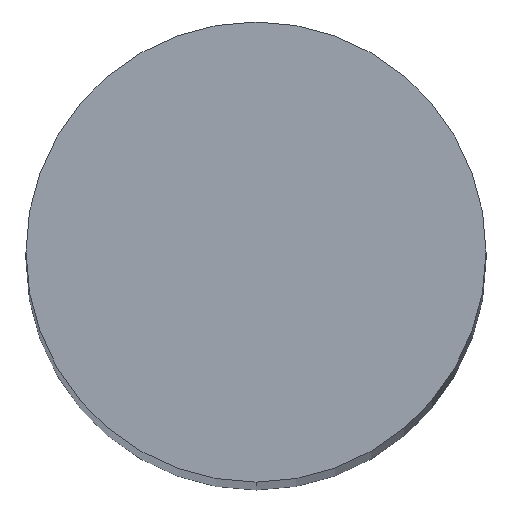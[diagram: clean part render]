
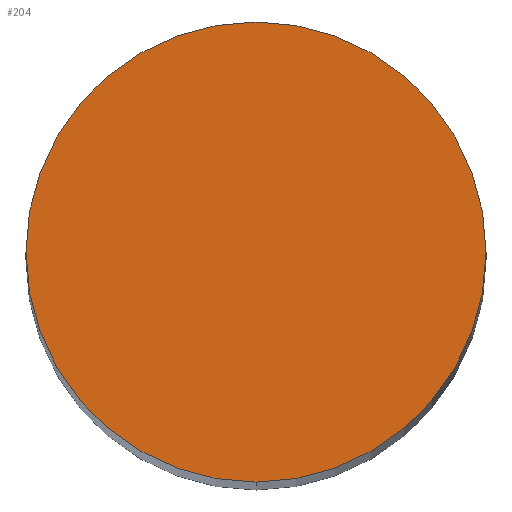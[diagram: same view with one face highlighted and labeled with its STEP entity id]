
A CAD part, top view. The second image highlights one B-rep face of the part: STEP entity #204.
In plain terms, the highlighted planar face has unit normal (0, 0, 1).
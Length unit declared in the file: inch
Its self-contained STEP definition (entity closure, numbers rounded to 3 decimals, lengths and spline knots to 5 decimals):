
#145=CARTESIAN_POINT('',(0.0,-0.07875,1.9685));
#146=VERTEX_POINT('',#145);
#153=CARTESIAN_POINT('',(0.0,0.07875,1.9685));
#154=VERTEX_POINT('',#153);
#155=CARTESIAN_POINT('',(0.0,0.0,1.9685));
#156=DIRECTION('',(0.0,-0.0,-1.0));
#157=DIRECTION('',(0.0,1.0,-0.0));
#158=AXIS2_PLACEMENT_3D('',#155,#156,#157);
#159=CIRCLE('',#158,0.07875);
#160=EDGE_CURVE('no 1299',#146,#154,#159,.T.);
#180=CARTESIAN_POINT('',(0.0,0.0,1.9685));
#181=DIRECTION('',(0.0,-0.0,-1.0));
#182=DIRECTION('',(0.0,1.0,-0.0));
#183=AXIS2_PLACEMENT_3D('',#180,#181,#182);
#184=CIRCLE('',#183,0.07875);
#185=EDGE_CURVE('no 1303',#154,#146,#184,.T.);
#195=ORIENTED_EDGE('',*,*,#160,.F.);
#196=ORIENTED_EDGE('',*,*,#185,.F.);
#197=EDGE_LOOP('',(#195,#196));
#198=FACE_OUTER_BOUND('',#197,.T.);
#199=CARTESIAN_POINT('',(0.07875,0.0,1.9685));
#200=DIRECTION('',(0.0,0.0,1.0));
#201=DIRECTION('',(0.0,-1.0,0.0));
#202=AXIS2_PLACEMENT_3D('',#199,#200,#201);
#203=PLANE('',#202);
#204=ADVANCED_FACE('no 1403',(#198),#203,.T.);
